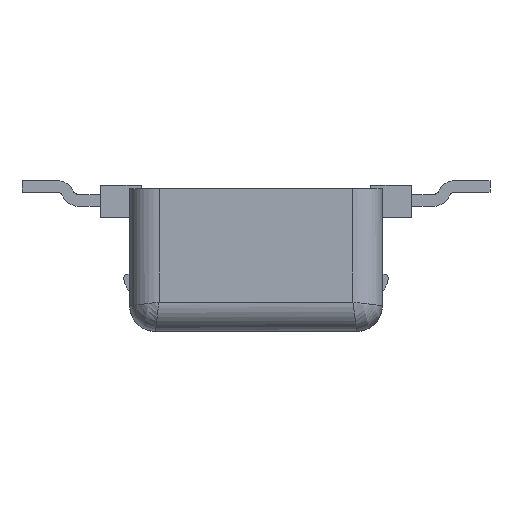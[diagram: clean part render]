
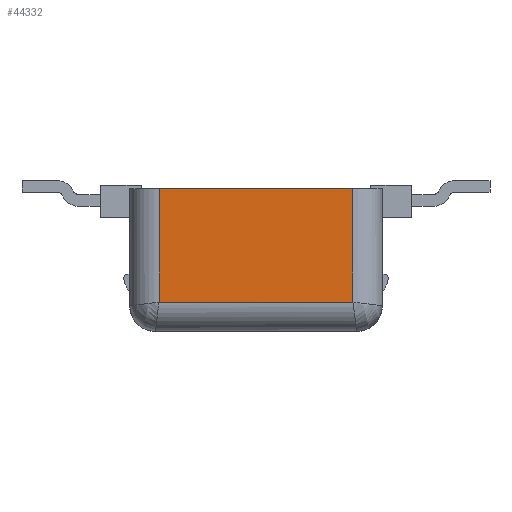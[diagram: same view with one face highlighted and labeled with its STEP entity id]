
A CAD part, front view. The second image highlights one B-rep face of the part: STEP entity #44332.
In plain terms, the highlighted planar face has unit normal (0, -1, 0).
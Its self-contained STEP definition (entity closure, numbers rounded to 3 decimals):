
#1946 = DIRECTION ( 'NONE',  ( 1., 0., 0. ) ) ;
#3019 = VECTOR ( 'NONE', #36578, 1000. ) ;
#4914 = DIRECTION ( 'NONE',  ( 0., 0., 1. ) ) ;
#5561 = ORIENTED_EDGE ( 'NONE', *, *, #24029, .T. ) ;
#8079 = VECTOR ( 'NONE', #28163, 1000. ) ;
#11738 = LINE ( 'NONE', #33378, #34684 ) ;
#13102 = LINE ( 'NONE', #27010, #38252 ) ;
#14034 = LINE ( 'NONE', #38649, #8079 ) ;
#15390 = EDGE_CURVE ( 'NONE', #24591, #23353, #11738, .T. ) ;
#15805 = VERTEX_POINT ( 'NONE', #30070 ) ;
#15990 = CARTESIAN_POINT ( 'NONE',  ( 0.829, -2.95, 0.32 ) ) ;
#19474 = PLANE ( 'NONE',  #41399 ) ;
#19913 = FACE_OUTER_BOUND ( 'NONE', #34860, .T. ) ;
#23353 = VERTEX_POINT ( 'NONE', #15990 ) ;
#23730 = ORIENTED_EDGE ( 'NONE', *, *, #15390, .T. ) ;
#23788 = EDGE_CURVE ( 'NONE', #15805, #23353, #14034, .T. ) ;
#24029 = EDGE_CURVE ( 'NONE', #15805, #39371, #43650, .T. ) ;
#24591 = VERTEX_POINT ( 'NONE', #40790 ) ;
#25711 = DIRECTION ( 'NONE',  ( 1., 0., 0. ) ) ;
#27010 = CARTESIAN_POINT ( 'NONE',  ( -0.829, -2.95, -0.649 ) ) ;
#28163 = DIRECTION ( 'NONE',  ( 1., 0., 0. ) ) ;
#30070 = CARTESIAN_POINT ( 'NONE',  ( -0.829, -2.95, 0.32 ) ) ;
#32728 = CARTESIAN_POINT ( 'NONE',  ( -0.829, -2.95, -0.649 ) ) ;
#33378 = CARTESIAN_POINT ( 'NONE',  ( 0.829, -2.95, -0.649 ) ) ;
#34684 = VECTOR ( 'NONE', #4914, 1000. ) ;
#34860 = EDGE_LOOP ( 'NONE', ( #39365, #23730, #40265, #5561 ) ) ;
#36578 = DIRECTION ( 'NONE',  ( 0., 0., -1. ) ) ;
#37265 = EDGE_CURVE ( 'NONE', #39371, #24591, #13102, .T. ) ;
#37467 = CARTESIAN_POINT ( 'NONE',  ( -0.829, -2.95, 0.32 ) ) ;
#38252 = VECTOR ( 'NONE', #25711, 1000. ) ;
#38649 = CARTESIAN_POINT ( 'NONE',  ( -0.829, -2.95, 0.32 ) ) ;
#39365 = ORIENTED_EDGE ( 'NONE', *, *, #37265, .T. ) ;
#39371 = VERTEX_POINT ( 'NONE', #32728 ) ;
#40265 = ORIENTED_EDGE ( 'NONE', *, *, #23788, .F. ) ;
#40790 = CARTESIAN_POINT ( 'NONE',  ( 0.829, -2.95, -0.649 ) ) ;
#40904 = DIRECTION ( 'NONE',  ( 0., 1., 0. ) ) ;
#41399 = AXIS2_PLACEMENT_3D ( 'NONE', #44096, #40904, #1946 ) ;
#43650 = LINE ( 'NONE', #37467, #3019 ) ;
#44096 = CARTESIAN_POINT ( 'NONE',  ( 0., -2.95, 0.32 ) ) ;
#44332 = ADVANCED_FACE ( 'NONE', ( #19913 ), #19474, .F. ) ;
